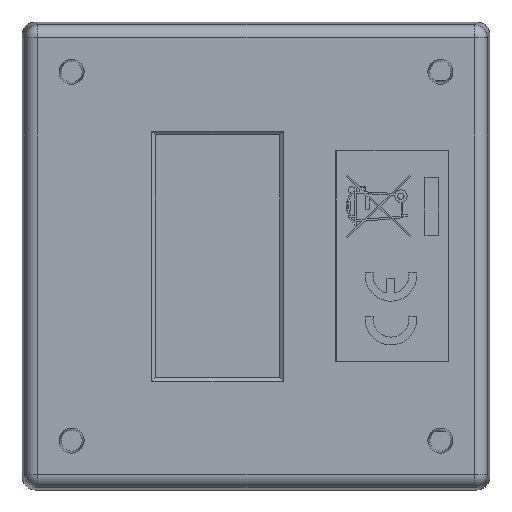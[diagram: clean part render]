
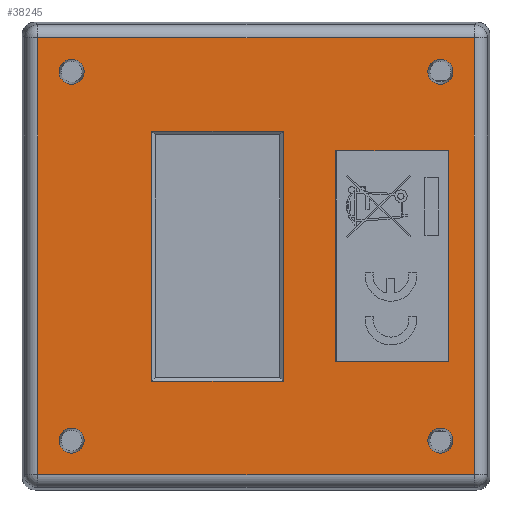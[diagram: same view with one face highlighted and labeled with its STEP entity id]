
A CAD part, front view. The second image highlights one B-rep face of the part: STEP entity #38245.
In plain terms, the highlighted planar face has unit normal (0, -1, 0) as drawn and (0, 0, -1) by its records, which use the part's own axes.
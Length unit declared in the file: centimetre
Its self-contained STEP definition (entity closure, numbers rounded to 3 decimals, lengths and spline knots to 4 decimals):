
#11125=CIRCLE('',#39828,0.1209);
#11126=CIRCLE('',#39829,0.1209);
#11127=CIRCLE('',#39830,0.1209);
#11128=CIRCLE('',#39831,0.1209);
#12725=VERTEX_POINT('',#49053);
#12726=VERTEX_POINT('',#49055);
#12728=VERTEX_POINT('',#49061);
#12730=VERTEX_POINT('',#49067);
#12825=VERTEX_POINT('',#49413);
#12826=VERTEX_POINT('',#49415);
#12828=VERTEX_POINT('',#49421);
#12830=VERTEX_POINT('',#49427);
#12951=VERTEX_POINT('',#50499);
#12952=VERTEX_POINT('',#50501);
#12953=VERTEX_POINT('',#50503);
#12954=VERTEX_POINT('',#50505);
#12955=VERTEX_POINT('',#50507);
#12956=VERTEX_POINT('',#50508);
#12957=VERTEX_POINT('',#50510);
#12958=VERTEX_POINT('',#50512);
#15638=VECTOR('',#42280,1.);
#15641=VECTOR('',#42284,1.);
#15644=VECTOR('',#42288,1.);
#15647=VECTOR('',#42292,1.);
#15777=VECTOR('',#42486,1.);
#15780=VECTOR('',#42490,1.);
#15783=VECTOR('',#42494,1.);
#15786=VECTOR('',#42498,1.);
#15947=VECTOR('',#42731,1.);
#15948=VECTOR('',#42732,1.);
#15949=VECTOR('',#42733,1.);
#15950=VECTOR('',#42734,1.);
#18828=LINE('',#49054,#15638);
#18831=LINE('',#49060,#15641);
#18834=LINE('',#49066,#15644);
#18837=LINE('',#49071,#15647);
#18967=LINE('',#49414,#15777);
#18970=LINE('',#49420,#15780);
#18973=LINE('',#49426,#15783);
#18976=LINE('',#49431,#15786);
#19137=LINE('',#50506,#15947);
#19138=LINE('',#50509,#15948);
#19139=LINE('',#50511,#15949);
#19140=LINE('',#50513,#15950);
#22099=EDGE_CURVE('',#12726,#12725,#18828,.T.);
#22102=EDGE_CURVE('',#12728,#12726,#18831,.T.);
#22105=EDGE_CURVE('',#12730,#12728,#18834,.T.);
#22108=EDGE_CURVE('',#12725,#12730,#18837,.T.);
#22248=EDGE_CURVE('',#12826,#12825,#18967,.F.);
#22251=EDGE_CURVE('',#12828,#12826,#18970,.F.);
#22254=EDGE_CURVE('',#12830,#12828,#18973,.F.);
#22257=EDGE_CURVE('',#12825,#12830,#18976,.F.);
#22438=EDGE_CURVE('',#12951,#12951,#11125,.F.);
#22439=EDGE_CURVE('',#12952,#12952,#11126,.F.);
#22440=EDGE_CURVE('',#12953,#12953,#11127,.F.);
#22441=EDGE_CURVE('',#12954,#12954,#11128,.F.);
#22442=EDGE_CURVE('',#12955,#12956,#19137,.T.);
#22443=EDGE_CURVE('',#12957,#12955,#19138,.T.);
#22444=EDGE_CURVE('',#12958,#12957,#19139,.T.);
#22445=EDGE_CURVE('',#12956,#12958,#19140,.T.);
#27545=ORIENTED_EDGE('',*,*,#22099,.T.);
#27546=ORIENTED_EDGE('',*,*,#22108,.T.);
#27547=ORIENTED_EDGE('',*,*,#22105,.T.);
#27548=ORIENTED_EDGE('',*,*,#22102,.T.);
#27549=ORIENTED_EDGE('',*,*,#22438,.T.);
#27550=ORIENTED_EDGE('',*,*,#22439,.T.);
#27551=ORIENTED_EDGE('',*,*,#22440,.T.);
#27552=ORIENTED_EDGE('',*,*,#22441,.T.);
#27553=ORIENTED_EDGE('',*,*,#22442,.F.);
#27554=ORIENTED_EDGE('',*,*,#22443,.F.);
#27555=ORIENTED_EDGE('',*,*,#22444,.F.);
#27556=ORIENTED_EDGE('',*,*,#22445,.F.);
#27557=ORIENTED_EDGE('',*,*,#22248,.T.);
#27558=ORIENTED_EDGE('',*,*,#22257,.T.);
#27559=ORIENTED_EDGE('',*,*,#22254,.T.);
#27560=ORIENTED_EDGE('',*,*,#22251,.T.);
#34827=EDGE_LOOP('',(#27545,#27546,#27547,#27548));
#34828=EDGE_LOOP('',(#27549));
#34829=EDGE_LOOP('',(#27550));
#34830=EDGE_LOOP('',(#27551));
#34831=EDGE_LOOP('',(#27552));
#34832=EDGE_LOOP('',(#27553,#27554,#27555,#27556));
#34833=EDGE_LOOP('',(#27557,#27558,#27559,#27560));
#36547=FACE_BOUND('',#34827,.T.);
#36548=FACE_BOUND('',#34828,.T.);
#36549=FACE_BOUND('',#34829,.T.);
#36550=FACE_BOUND('',#34830,.T.);
#36551=FACE_BOUND('',#34831,.T.);
#36552=FACE_BOUND('',#34832,.T.);
#36553=FACE_BOUND('',#34833,.T.);
#38245=ADVANCED_FACE('',(#36547,#36548,#36549,#36550,#36551,#36552,#36553),
#61770,.F.);
#39827=AXIS2_PLACEMENT_3D('',#50497,#42722,$);
#39828=AXIS2_PLACEMENT_3D('',#50498,#42723,#42724);
#39829=AXIS2_PLACEMENT_3D('',#50500,#42725,#42726);
#39830=AXIS2_PLACEMENT_3D('',#50502,#42727,#42728);
#39831=AXIS2_PLACEMENT_3D('',#50504,#42729,#42730);
#42280=DIRECTION('',(1.,0.,0.));
#42284=DIRECTION('',(0.,-1.,0.));
#42288=DIRECTION('',(-1.,0.,0.));
#42292=DIRECTION('',(0.,1.,0.));
#42486=DIRECTION('',(-1.,0.,0.));
#42490=DIRECTION('',(0.,1.,0.));
#42494=DIRECTION('',(1.,0.,0.));
#42498=DIRECTION('',(0.,-1.,0.));
#42722=DIRECTION('',(0.,0.,1.));
#42723=DIRECTION('',(0.,0.,-1.));
#42724=DIRECTION('',(-0.121,0.,0.));
#42725=DIRECTION('',(0.,0.,-1.));
#42726=DIRECTION('',(-0.121,0.,0.));
#42727=DIRECTION('',(0.,0.,-1.));
#42728=DIRECTION('',(-0.121,0.,0.));
#42729=DIRECTION('',(0.,0.,-1.));
#42730=DIRECTION('',(-0.121,0.,0.));
#42731=DIRECTION('',(-1.,0.,0.));
#42732=DIRECTION('',(0.,1.,0.));
#42733=DIRECTION('',(1.,0.,0.));
#42734=DIRECTION('',(0.,-1.,0.));
#49053=CARTESIAN_POINT('',(1.2065,-0.2639,-0.0032));
#49054=CARTESIAN_POINT('',(0.6033,-0.2639,-0.0032));
#49055=CARTESIAN_POINT('',(-1.2065,-0.2639,-0.0032));
#49060=CARTESIAN_POINT('',(-1.2065,-0.1319,-0.0032));
#49061=CARTESIAN_POINT('',(-1.2065,1.0061,-0.0032));
#49066=CARTESIAN_POINT('',(-0.6032,1.0061,-0.0032));
#49067=CARTESIAN_POINT('',(1.2065,1.0061,-0.0032));
#49071=CARTESIAN_POINT('',(1.2065,0.5031,-0.0032));
#49413=CARTESIAN_POINT('',(1.0178,-1.8531,-0.0032));
#49414=CARTESIAN_POINT('',(0.,-1.8531,-0.0032));
#49415=CARTESIAN_POINT('',(-1.0178,-1.8531,-0.0032));
#49420=CARTESIAN_POINT('',(-1.0178,-0.3279,-0.0032));
#49421=CARTESIAN_POINT('',(-1.0178,-0.7701,-0.0032));
#49426=CARTESIAN_POINT('',(0.,-0.7701,-0.0032));
#49427=CARTESIAN_POINT('',(1.0178,-0.7701,-0.0032));
#49431=CARTESIAN_POINT('',(1.0178,-0.3279,-0.0032));
#50497=CARTESIAN_POINT('',(0.,0.,-0.0032));
#50498=CARTESIAN_POINT('',(1.778,1.778,-0.0032));
#50499=CARTESIAN_POINT('',(1.8989,1.778,-0.0032));
#50500=CARTESIAN_POINT('',(1.778,-1.778,-0.0032));
#50501=CARTESIAN_POINT('',(1.8989,-1.778,-0.0032));
#50502=CARTESIAN_POINT('',(-1.778,-1.778,-0.0032));
#50503=CARTESIAN_POINT('',(-1.6571,-1.778,-0.0032));
#50504=CARTESIAN_POINT('',(-1.778,1.778,-0.0032));
#50505=CARTESIAN_POINT('',(-1.6571,1.778,-0.0032));
#50506=CARTESIAN_POINT('',(0.,2.1054,-0.0032));
#50507=CARTESIAN_POINT('',(2.1054,2.1054,-0.0032));
#50508=CARTESIAN_POINT('',(-2.1054,2.1054,-0.0032));
#50509=CARTESIAN_POINT('',(2.1054,0.,-0.0032));
#50510=CARTESIAN_POINT('',(2.1054,-2.1054,-0.0032));
#50511=CARTESIAN_POINT('',(0.,-2.1054,-0.0032));
#50512=CARTESIAN_POINT('',(-2.1054,-2.1054,-0.0032));
#50513=CARTESIAN_POINT('',(-2.1054,0.,-0.0032));
#61770=PLANE('',#39827);
